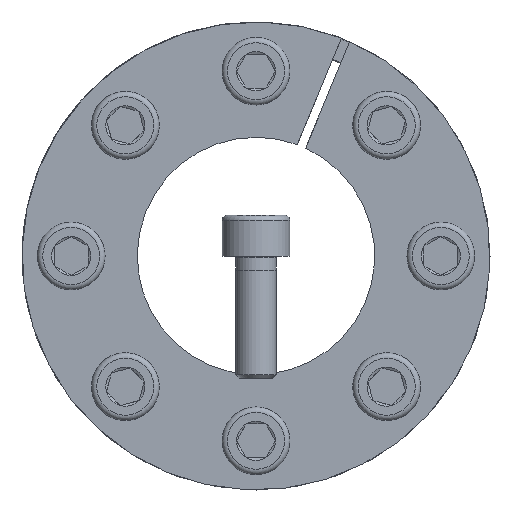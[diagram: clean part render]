
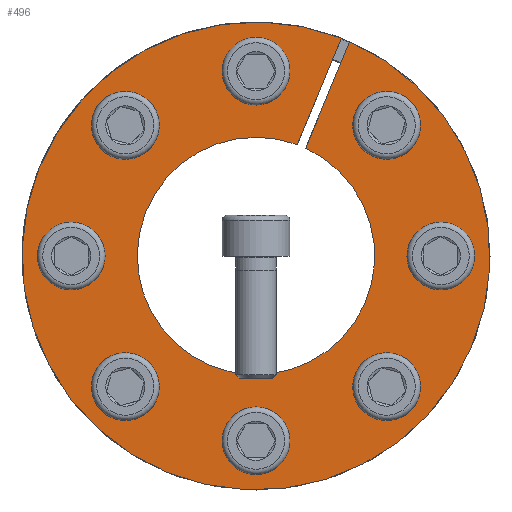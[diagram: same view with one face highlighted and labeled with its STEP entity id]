
A CAD part, front view. The second image highlights one B-rep face of the part: STEP entity #496.
In plain terms, the highlighted planar face has unit normal (0, -1, 0).
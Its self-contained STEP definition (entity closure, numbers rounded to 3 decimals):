
#496 = ADVANCED_FACE( '', ( #896, #897, #898, #899, #900, #901, #902, #903, #904 ), #905, .F. );
#896 = FACE_BOUND( '', #1468, .T. );
#897 = FACE_BOUND( '', #1469, .T. );
#898 = FACE_BOUND( '', #1470, .T. );
#899 = FACE_BOUND( '', #1471, .T. );
#900 = FACE_BOUND( '', #1472, .T. );
#901 = FACE_BOUND( '', #1473, .T. );
#902 = FACE_BOUND( '', #1474, .T. );
#903 = FACE_BOUND( '', #1475, .T. );
#904 = FACE_OUTER_BOUND( '', #1476, .T. );
#905 = PLANE( '', #1477 );
#1468 = EDGE_LOOP( '', ( #2149 ) );
#1469 = EDGE_LOOP( '', ( #2150 ) );
#1470 = EDGE_LOOP( '', ( #2151 ) );
#1471 = EDGE_LOOP( '', ( #2152 ) );
#1472 = EDGE_LOOP( '', ( #2153 ) );
#1473 = EDGE_LOOP( '', ( #2154 ) );
#1474 = EDGE_LOOP( '', ( #2155 ) );
#1475 = EDGE_LOOP( '', ( #2156 ) );
#1476 = EDGE_LOOP( '', ( #2157, #2158, #2159, #2160 ) );
#1477 = AXIS2_PLACEMENT_3D( '', #2161, #2162, #2163 );
#2149 = ORIENTED_EDGE( '', *, *, #3435, .T. );
#2150 = ORIENTED_EDGE( '', *, *, #3436, .T. );
#2151 = ORIENTED_EDGE( '', *, *, #3437, .T. );
#2152 = ORIENTED_EDGE( '', *, *, #3438, .T. );
#2153 = ORIENTED_EDGE( '', *, *, #3439, .T. );
#2154 = ORIENTED_EDGE( '', *, *, #3440, .T. );
#2155 = ORIENTED_EDGE( '', *, *, #3441, .T. );
#2156 = ORIENTED_EDGE( '', *, *, #3424, .T. );
#2157 = ORIENTED_EDGE( '', *, *, #3419, .T. );
#2158 = ORIENTED_EDGE( '', *, *, #3425, .T. );
#2159 = ORIENTED_EDGE( '', *, *, #3396, .T. );
#2160 = ORIENTED_EDGE( '', *, *, #3387, .F. );
#2161 = CARTESIAN_POINT( '', ( 0., 0., 34.5 ) );
#2162 = DIRECTION( '', ( 0., 1., 0. ) );
#2163 = DIRECTION( '', ( 0., 0., 1. ) );
#3387 = EDGE_CURVE( '', #3758, #3754, #3760, .T. );
#3396 = EDGE_CURVE( '', #3777, #3754, #3778, .T. );
#3419 = EDGE_CURVE( '', #3758, #3813, #3815, .T. );
#3424 = EDGE_CURVE( '', #3821, #3821, #3822, .T. );
#3425 = EDGE_CURVE( '', #3813, #3777, #3823, .T. );
#3435 = EDGE_CURVE( '', #3841, #3841, #3842, .T. );
#3436 = EDGE_CURVE( '', #3843, #3843, #3844, .T. );
#3437 = EDGE_CURVE( '', #3845, #3845, #3846, .T. );
#3438 = EDGE_CURVE( '', #3847, #3847, #3848, .T. );
#3439 = EDGE_CURVE( '', #3849, #3849, #3850, .T. );
#3440 = EDGE_CURVE( '', #3851, #3851, #3852, .T. );
#3441 = EDGE_CURVE( '', #3853, #3853, #3854, .T. );
#3754 = VERTEX_POINT( '', #4267 );
#3758 = VERTEX_POINT( '', #4272 );
#3760 = CIRCLE( '', #4275, 17.5 );
#3777 = VERTEX_POINT( '', #4300 );
#3778 = LINE( '', #4301, #4302 );
#3813 = VERTEX_POINT( '', #4366 );
#3815 = LINE( '', #4369, #4370 );
#3821 = VERTEX_POINT( '', #4376 );
#3822 = CIRCLE( '', #4377, 3. );
#3823 = CIRCLE( '', #4378, 34.5 );
#3841 = VERTEX_POINT( '', #4396 );
#3842 = CIRCLE( '', #4397, 3. );
#3843 = VERTEX_POINT( '', #4398 );
#3844 = CIRCLE( '', #4399, 3. );
#3845 = VERTEX_POINT( '', #4400 );
#3846 = CIRCLE( '', #4401, 3. );
#3847 = VERTEX_POINT( '', #4402 );
#3848 = CIRCLE( '', #4403, 3. );
#3849 = VERTEX_POINT( '', #4404 );
#3850 = CIRCLE( '', #4405, 3. );
#3851 = VERTEX_POINT( '', #4406 );
#3852 = CIRCLE( '', #4407, 3. );
#3853 = VERTEX_POINT( '', #4408 );
#3854 = CIRCLE( '', #4409, 3. );
#4267 = CARTESIAN_POINT( '', ( 7.312, 0., 15.899 ) );
#4272 = CARTESIAN_POINT( '', ( 6.072, 0., 16.413 ) );
#4275 = AXIS2_PLACEMENT_3D( '', #5232, #5233, #5234 );
#4300 = CARTESIAN_POINT( '', ( 13.82, 0., 31.611 ) );
#4301 = CARTESIAN_POINT( '', ( 13.823, 0., 31.617 ) );
#4302 = VECTOR( '', #5249, 1000. );
#4366 = CARTESIAN_POINT( '', ( 12.58, 0., 32.125 ) );
#4369 = CARTESIAN_POINT( '', ( 6.072, 0., 16.413 ) );
#4370 = VECTOR( '', #5274, 1000. );
#4376 = CARTESIAN_POINT( '', ( -17.147, 0., 21.39 ) );
#4377 = AXIS2_PLACEMENT_3D( '', #5287, #5288, #5289 );
#4378 = AXIS2_PLACEMENT_3D( '', #5290, #5291, #5292 );
#4396 = CARTESIAN_POINT( '', ( 3., 0., 27.25 ) );
#4397 = AXIS2_PLACEMENT_3D( '', #5320, #5321, #5322 );
#4398 = CARTESIAN_POINT( '', ( 21.39, 0., 17.147 ) );
#4399 = AXIS2_PLACEMENT_3D( '', #5323, #5324, #5325 );
#4400 = CARTESIAN_POINT( '', ( 27.25, 0., -3. ) );
#4401 = AXIS2_PLACEMENT_3D( '', #5326, #5327, #5328 );
#4402 = CARTESIAN_POINT( '', ( 17.147, 0., -21.39 ) );
#4403 = AXIS2_PLACEMENT_3D( '', #5329, #5330, #5331 );
#4404 = CARTESIAN_POINT( '', ( -3., 0., -27.25 ) );
#4405 = AXIS2_PLACEMENT_3D( '', #5332, #5333, #5334 );
#4406 = CARTESIAN_POINT( '', ( -21.39, 0., -17.147 ) );
#4407 = AXIS2_PLACEMENT_3D( '', #5335, #5336, #5337 );
#4408 = CARTESIAN_POINT( '', ( -27.25, 0., 3. ) );
#4409 = AXIS2_PLACEMENT_3D( '', #5338, #5339, #5340 );
#5232 = CARTESIAN_POINT( '', ( 0., 0., 0. ) );
#5233 = DIRECTION( '', ( 0., -1., 0. ) );
#5234 = DIRECTION( '', ( 0., 0., -1. ) );
#5249 = DIRECTION( '', ( -0.383, 0., -0.924 ) );
#5274 = DIRECTION( '', ( 0.383, 0., 0.924 ) );
#5287 = CARTESIAN_POINT( '', ( -19.269, 0., 19.269 ) );
#5288 = DIRECTION( '', ( 0., 1., 0. ) );
#5289 = DIRECTION( '', ( 0.707, 0., 0.707 ) );
#5290 = CARTESIAN_POINT( '', ( 0., 0., 0. ) );
#5291 = DIRECTION( '', ( 0., -1., 0. ) );
#5292 = DIRECTION( '', ( 0., 0., -1. ) );
#5320 = CARTESIAN_POINT( '', ( 0., 0., 27.25 ) );
#5321 = DIRECTION( '', ( 0., 1., 0. ) );
#5322 = DIRECTION( '', ( 1., 0., 0. ) );
#5323 = CARTESIAN_POINT( '', ( 19.269, 0., 19.269 ) );
#5324 = DIRECTION( '', ( 0., 1., 0. ) );
#5325 = DIRECTION( '', ( 0.707, 0., -0.707 ) );
#5326 = CARTESIAN_POINT( '', ( 27.25, 0., 0. ) );
#5327 = DIRECTION( '', ( 0., 1., 0. ) );
#5328 = DIRECTION( '', ( 0., 0., -1. ) );
#5329 = CARTESIAN_POINT( '', ( 19.269, 0., -19.269 ) );
#5330 = DIRECTION( '', ( 0., 1., 0. ) );
#5331 = DIRECTION( '', ( -0.707, 0., -0.707 ) );
#5332 = CARTESIAN_POINT( '', ( 0., 0., -27.25 ) );
#5333 = DIRECTION( '', ( 0., 1., 0. ) );
#5334 = DIRECTION( '', ( -1., 0., 0. ) );
#5335 = CARTESIAN_POINT( '', ( -19.269, 0., -19.269 ) );
#5336 = DIRECTION( '', ( 0., 1., 0. ) );
#5337 = DIRECTION( '', ( -0.707, 0., 0.707 ) );
#5338 = CARTESIAN_POINT( '', ( -27.25, 0., 0. ) );
#5339 = DIRECTION( '', ( 0., 1., 0. ) );
#5340 = DIRECTION( '', ( 0., 0., 1. ) );
